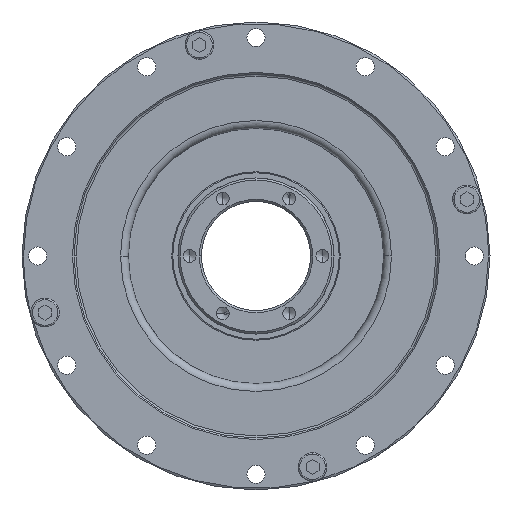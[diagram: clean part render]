
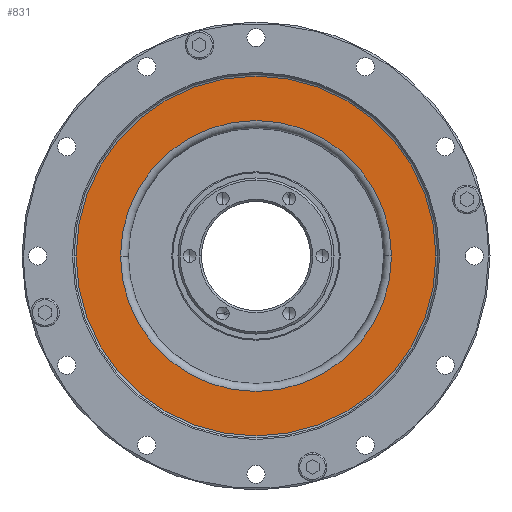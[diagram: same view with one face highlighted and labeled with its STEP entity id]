
A CAD part, left-side view. The second image highlights one B-rep face of the part: STEP entity #831.
In plain terms, the highlighted planar face has unit normal (-1, 0, 0).
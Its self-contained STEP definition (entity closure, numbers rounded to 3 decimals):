
#831=ADVANCED_FACE('NONE',(#1881,#1882),#1883,.T.);
#1881=FACE_OUTER_BOUND('',#3188,.T.);
#1882=FACE_BOUND('',#3189,.T.);
#1883=PLANE('',#3190);
#3188=EDGE_LOOP('',(#5546,#5547));
#3189=EDGE_LOOP('',(#5548,#5549));
#3190=AXIS2_PLACEMENT_3D('',#5550,#5551,#5552);
#5546=ORIENTED_EDGE('',*,*,#7494,.T.);
#5547=ORIENTED_EDGE('',*,*,#8185,.T.);
#5548=ORIENTED_EDGE('',*,*,#7504,.T.);
#5549=ORIENTED_EDGE('',*,*,#8189,.T.);
#5550=CARTESIAN_POINT('',(2.716,30.33,0.));
#5551=DIRECTION('',(-1.0,0.,0.));
#5552=DIRECTION('',(0.,0.0,1.0));
#7494=EDGE_CURVE('NONE',#8940,#8938,#8941,.T.);
#7504=EDGE_CURVE('NONE',#8957,#8955,#8958,.T.);
#8185=EDGE_CURVE('NONE',#8938,#8940,#10055,.T.);
#8189=EDGE_CURVE('NONE',#8955,#8957,#10059,.T.);
#8938=VERTEX_POINT('NONE',#10934);
#8940=VERTEX_POINT('NONE',#10936);
#8941=CIRCLE('',#10937,34.6);
#8955=VERTEX_POINT('NONE',#10953);
#8957=VERTEX_POINT('NONE',#10955);
#8958=CIRCLE('',#10956,26.06);
#10055=CIRCLE('',#12285,34.6);
#10059=CIRCLE('',#12289,26.06);
#10934=CARTESIAN_POINT('',(2.716,-34.6,0.));
#10936=CARTESIAN_POINT('',(2.716,34.6,0.));
#10937=AXIS2_PLACEMENT_3D('',#13238,#13239,#13240);
#10953=CARTESIAN_POINT('',(2.716,-26.06,0.));
#10955=CARTESIAN_POINT('',(2.716,26.06,0.));
#10956=AXIS2_PLACEMENT_3D('',#13258,#13259,#13260);
#12285=AXIS2_PLACEMENT_3D('',#14369,#14370,#14371);
#12289=AXIS2_PLACEMENT_3D('',#14375,#14376,#14377);
#13238=CARTESIAN_POINT('',(2.716,0.,0.));
#13239=DIRECTION('',(-1.0,0.,0.));
#13240=DIRECTION('',(0.,1.0,0.0));
#13258=CARTESIAN_POINT('',(2.716,0.,0.));
#13259=DIRECTION('',(1.0,0.,0.));
#13260=DIRECTION('',(0.,1.0,0.0));
#14369=CARTESIAN_POINT('',(2.716,0.,0.));
#14370=DIRECTION('',(-1.0,0.,0.));
#14371=DIRECTION('',(0.,1.0,0.0));
#14375=CARTESIAN_POINT('',(2.716,0.,0.));
#14376=DIRECTION('',(1.0,0.,0.));
#14377=DIRECTION('',(0.,1.0,0.0));
